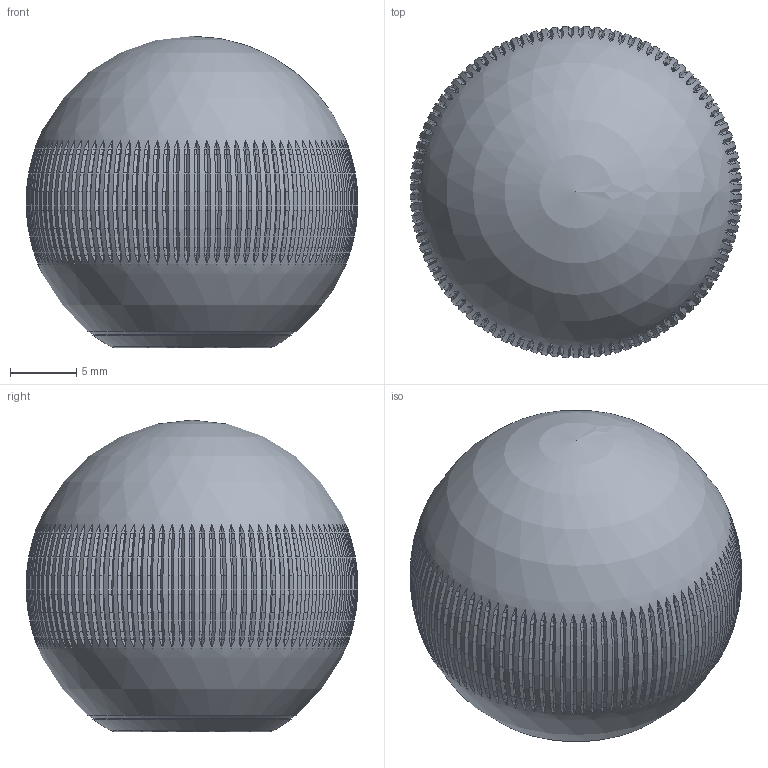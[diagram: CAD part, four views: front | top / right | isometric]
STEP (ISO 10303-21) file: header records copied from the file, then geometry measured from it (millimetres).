
FILE_DESCRIPTION(('Open CASCADE Model'),'2;1');
FILE_NAME('FL-BALL-knob-25','2026-10-19T21:24:39',('Author'),( 'Open CASCADE'),'Open CASCADE STEP processor 8.0','build123d', 'Unknown');
FILE_SCHEMA(('AUTOMOTIVE_DESIGN { 1 0 10303 214 1 1 1 1 }'));
Length unit declared in the file: millimetre
Products named in the file (2): FL-BALL-knob-25; brass_FL-BALL25__k
Assembly tree (1 placements, depth 2):
  FL-BALL-knob-25
    brass_FL-BALL25__k
Bounding box: 24.97 x 25 x 23.47 mm (x, y, z)
Volume: 7943.4 mm3; surface area: 2230.1 mm2
Topology: 1 solids, 1 shells, 1775 faces, 4234 edges, 2559 vertices
Faces by surface type: bspline 1765, plane 3, cylinder 3, sphere 2, cone 2
Full cylindrical faces by diameter (mm): 3.3 x1, 5.1 x1, 15.691 x1
Entity records: 151982 total; most frequent: CARTESIAN_POINT 84803, ORIENTED_EDGE 8466, PCURVE 8466, DEFINITIONAL_REPRESENTATION 8466, B_SPLINE_CURVE_WITH_KNOTS 7357, DIRECTION 5377, LINE 5327, VECTOR 5327
